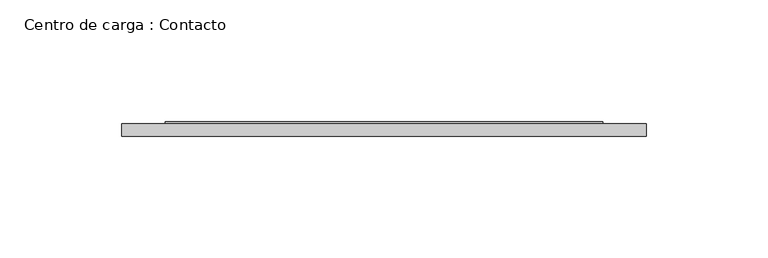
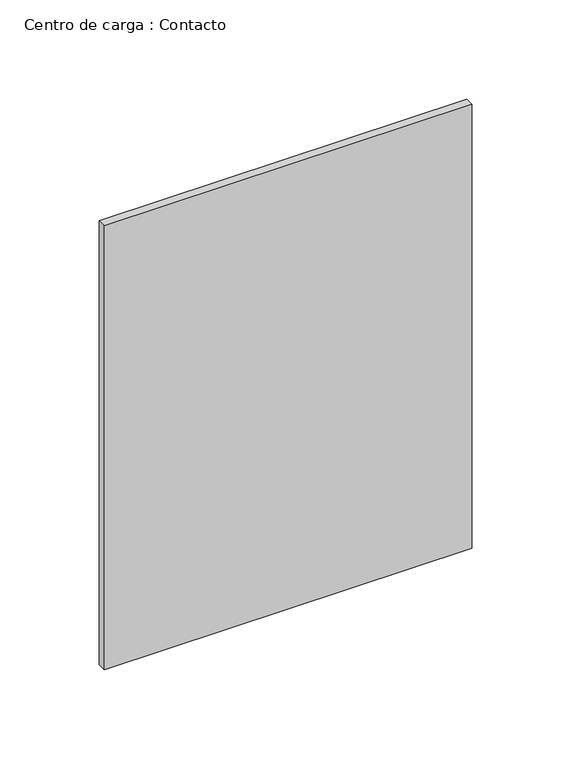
"""IFC4 building model written with IfcOpenShell, lengths in millimetres: proxy geometry, Centro de carga : Contacto."""

from ifc_helpers import new_model, si_unit, frame, origin, place, context, project, spatial, polyline, outline, extrude, source, transform, mapped, element, save


def centro_de_carga_contacto_4e2c06eb(model_context):
    return source(origin(), model_context, "Body", "SweptSolid", [
        extrude(outline(polyline([(1338.0, 215.0), (1338.0, 35.0), (1138.0, 35.0), (1138.0, 215.0), (1338.0, 215.0)]), holes=[polyline([(1140.0, 213.0), (1140.0, 37.0), (1336.0, 37.0), (1336.0, 213.0), (1140.0, 213.0)])]), frame((0.0, 76.2025607, 0.0), z_axis=(0.0, 1.0, 0.0), x_axis=(0.0, 0.0, 1.0)), (0.0, 0.0, 1.0), 4.7658788),
        extrude(outline(polyline([(17.0, 80.0), (233.0, 80.0), (233.0, 75.0), (17.0, 75.0), (17.0, 80.0)])), frame((0.0, 0.0, 1100.0), z_axis=(0.0, 0.0, 1.0), x_axis=(1.0, 0.0, 0.0)), (0.0, 0.0, 1.0), 276.0),
    ])


if __name__ == "__main__":
    model = new_model("IFC4")
    model_context = context("Model", 3, world=origin())
    ifc_project = project(units=[si_unit("LENGTHUNIT", "METRE", prefix="MILLI")], contexts=[model_context])
    site = spatial("IfcSite", under=ifc_project)
    building = spatial("IfcBuilding", under=site)
    placement = place(None, origin())
    centro_de_carga_contacto_shape = centro_de_carga_contacto_4e2c06eb(model_context)
    element("IfcBuildingElementProxy", 1, Name="Centro de carga : Contacto", ObjectType="Centro de carga : Contacto", at=placement, inside=building, context=model_context, shape_type="MappedRepresentation", body=[
        mapped(centro_de_carga_contacto_shape, transform((0.0, 0.0, 0.0), x_axis=(1.0, 0.0, 0.0), y_axis=(0.0, 1.0, 0.0), z_axis=(0.0, 0.0, 1.0))),
    ])
    save(model, "model.ifc")
